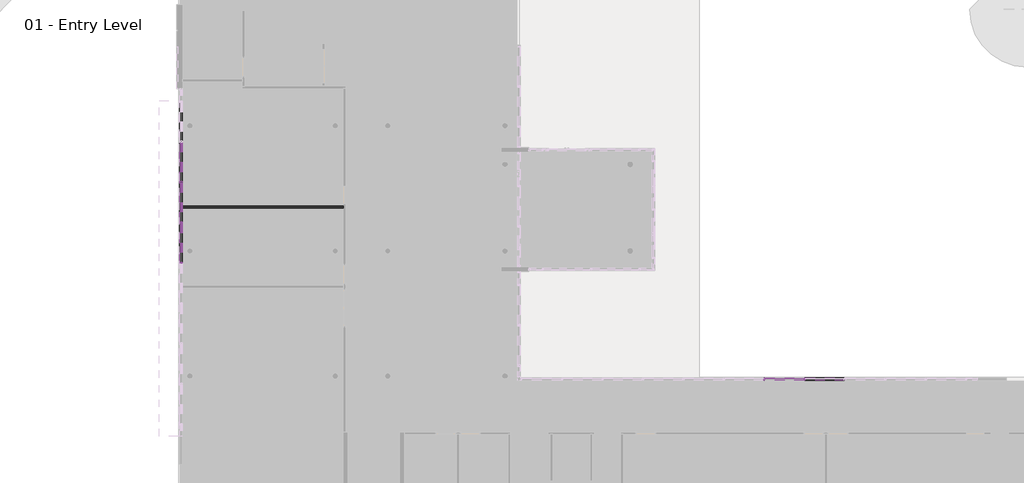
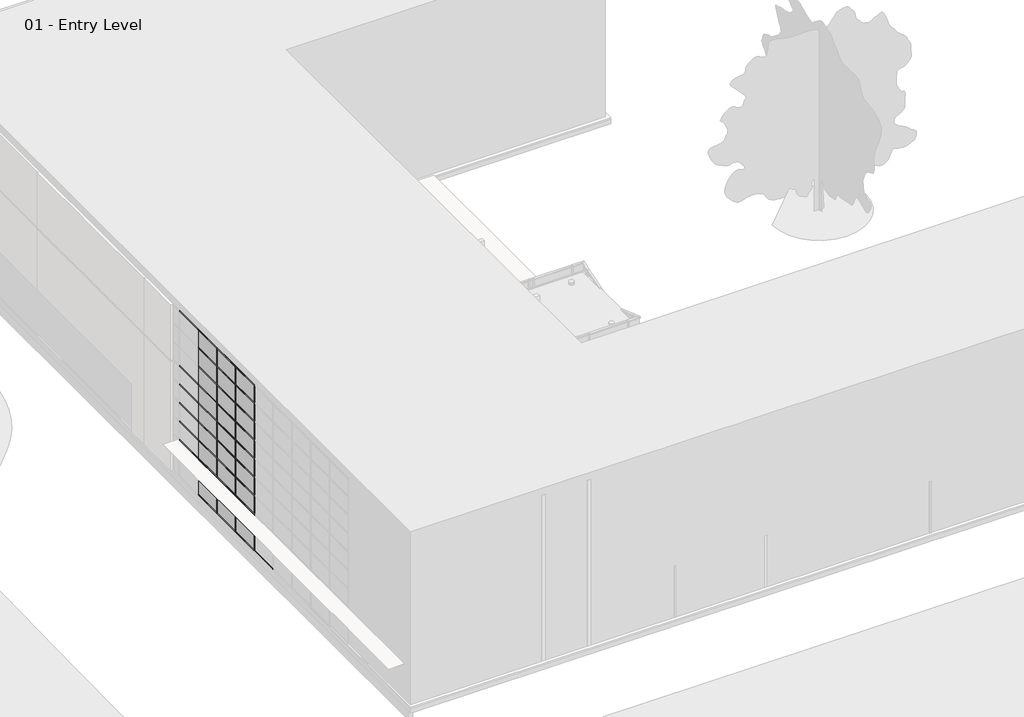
# One storey, part 11 of 35: 94 members, 36 plates, 1 wall.
"""IFC4 building model written with IfcOpenShell, lengths in millimetres."""

from ifc_helpers import new_model, si_unit, origin, origin_with_axes, place, context, project, spatial, polyline, outline, extrude, transform, mapped, element, save
from components import member_2b49869a, member_391b434c, member_9e90ae50, system_panel_glazed_1b9d6098, system_panel_glazed_70da479d, system_panel_solid_b376696c, system_panel_solid_77e8b053

model = new_model("IFC4")

# Units and contexts
model_context = context("Model", 3, world=origin())
ifc_project = project(units=[si_unit("LENGTHUNIT", "METRE", prefix="MILLI")], contexts=[model_context])

# Site, building, storey
site = spatial("IfcSite", under=ifc_project)
building = spatial("IfcBuilding", under=site)
storey = spatial("IfcBuildingStorey", under=building, Name="01 - Entry Level", Elevation=0.0)

# Members
placement = place(None, origin())
member_shape = member_2b49869a(model_context)
element("IfcMember", 1, ObjectType="Rectangular Mullion : 2.5\" x 5\" rectangular", at=placement, inside=storey, context=model_context, shape_type="MappedRepresentation", body=[
    mapped(member_shape, transform((178.7207476, 20920.0, 9753.6), x_axis=(0.0, -1.0, 0.0), y_axis=(-1.0, 0.0, 0.0), z_axis=(0.0, 0.0, -1.0))),
])
element("IfcMember", 2, ObjectType="Rectangular Mullion : 2.5\" x 5\" rectangular", at=placement, inside=storey, context=model_context, shape_type="MappedRepresentation", body=[
    mapped(member_shape, transform((178.7207476, 18888.0, 9753.6), x_axis=(0.0, -1.0, 0.0), y_axis=(-1.0, 0.0, 0.0), z_axis=(0.0, 0.0, -1.0))),
])
element("IfcMember", 3, ObjectType="Rectangular Mullion : 2.5\" x 5\" rectangular", at=placement, inside=storey, context=model_context, shape_type="MappedRepresentation", body=[
    mapped(member_shape, transform((178.7207476, 16856.0, 9753.6), x_axis=(0.0, -1.0, 0.0), y_axis=(-1.0, 0.0, 0.0), z_axis=(0.0, 0.0, -1.0))),
])
element("IfcMember", 4, ObjectType="Rectangular Mullion : 2.5\" x 5\" rectangular", at=placement, inside=storey, context=model_context, shape_type="MappedRepresentation", body=[
    mapped(member_shape, transform((31560.4207476, 11001.3, 9753.6), x_axis=(-1.0, 0.0, 0.0), y_axis=(0.0, 1.0, 0.0), z_axis=(0.0, 0.0, -1.0))),
])
element("IfcMember", 5, ObjectType="Rectangular Mullion : 2.5\" x 5\" rectangular", at=placement, inside=storey, context=model_context, shape_type="MappedRepresentation", body=[
    mapped(member_shape, transform((29528.4207476, 11001.3, 9753.6), x_axis=(-1.0, 0.0, 0.0), y_axis=(0.0, 1.0, 0.0), z_axis=(0.0, 0.0, -1.0))),
])
member_2_shape = member_391b434c(model_context)
element("IfcMember", 6, ObjectType="Rectangular Mullion : 2.5\" x 5\" rectangular", at=placement, inside=storey, context=model_context, shape_type="MappedRepresentation", body=[
    mapped(member_2_shape, transform((178.7207476, 22983.75, 10972.8), x_axis=(0.0, 0.0, 1.0), y_axis=(-1.0, 0.0, 0.0), z_axis=(0.0, -1.0, 0.0))),
])
element("IfcMember", 7, ObjectType="Rectangular Mullion : 2.5\" x 5\" rectangular", at=placement, inside=storey, context=model_context, shape_type="MappedRepresentation", body=[
    mapped(member_2_shape, transform((178.7207476, 20951.75, 10972.8), x_axis=(0.0, 0.0, 1.0), y_axis=(-1.0, 0.0, 0.0), z_axis=(0.0, -1.0, 0.0))),
])
element("IfcMember", 8, ObjectType="Rectangular Mullion : 2.5\" x 5\" rectangular", at=placement, inside=storey, context=model_context, shape_type="MappedRepresentation", body=[
    mapped(member_2_shape, transform((178.7207476, 18919.75, 10972.8), x_axis=(0.0, 0.0, 1.0), y_axis=(-1.0, 0.0, 0.0), z_axis=(0.0, -1.0, 0.0))),
])
element("IfcMember", 9, ObjectType="Rectangular Mullion : 2.5\" x 5\" rectangular", at=placement, inside=storey, context=model_context, shape_type="MappedRepresentation", body=[
    mapped(member_2_shape, transform((178.7207476, 16887.75, 10972.8), x_axis=(0.0, 0.0, 1.0), y_axis=(-1.0, 0.0, 0.0), z_axis=(0.0, -1.0, 0.0))),
])
element("IfcMember", 10, ObjectType="Rectangular Mullion : 2.5\" x 5\" rectangular", at=placement, inside=storey, context=model_context, shape_type="MappedRepresentation", body=[
    mapped(member_2_shape, transform((31592.1707476, 11001.3, 10972.8), x_axis=(0.0, 0.0, 1.0), y_axis=(0.0, 1.0, 0.0), z_axis=(-1.0, 0.0, 0.0))),
])
element("IfcMember", 11, ObjectType="Rectangular Mullion : 2.5\" x 5\" rectangular", at=placement, inside=storey, context=model_context, shape_type="MappedRepresentation", body=[
    mapped(member_2_shape, transform((178.7207476, 22920.25, 0.0), x_axis=(0.0, 0.0, -1.0), y_axis=(-1.0, 0.0, 0.0), z_axis=(0.0, 1.0, 0.0))),
])
element("IfcMember", 12, ObjectType="Rectangular Mullion : 2.5\" x 5\" rectangular", at=placement, inside=storey, context=model_context, shape_type="MappedRepresentation", body=[
    mapped(member_2_shape, transform((178.7207476, 20888.25, 0.0), x_axis=(0.0, 0.0, -1.0), y_axis=(-1.0, 0.0, 0.0), z_axis=(0.0, 1.0, 0.0))),
])
element("IfcMember", 13, ObjectType="Rectangular Mullion : 2.5\" x 5\" rectangular", at=placement, inside=storey, context=model_context, shape_type="MappedRepresentation", body=[
    mapped(member_2_shape, transform((178.7207476, 18856.25, 0.0), x_axis=(0.0, 0.0, -1.0), y_axis=(-1.0, 0.0, 0.0), z_axis=(0.0, 1.0, 0.0))),
])
element("IfcMember", 14, ObjectType="Rectangular Mullion : 2.5\" x 5\" rectangular", at=placement, inside=storey, context=model_context, shape_type="MappedRepresentation", body=[
    mapped(member_2_shape, transform((178.7207476, 16824.25, 0.0), x_axis=(0.0, 0.0, -1.0), y_axis=(-1.0, 0.0, 0.0), z_axis=(0.0, 1.0, 0.0))),
])
element("IfcMember", 15, ObjectType="Rectangular Mullion : 2.5\" x 5\" rectangular", at=placement, inside=storey, context=model_context, shape_type="MappedRepresentation", body=[
    mapped(member_2_shape, transform((31528.6707476, 11001.3, 0.0), x_axis=(0.0, 0.0, -1.0), y_axis=(0.0, 1.0, 0.0), z_axis=(1.0, 0.0, 0.0))),
])
member_3_shape = member_9e90ae50(model_context)
element("IfcMember", 16, ObjectType="Rectangular Mullion : 2.5\" x 5\" rectangular", at=placement, inside=storey, context=model_context, shape_type="MappedRepresentation", body=[
    mapped(member_3_shape, transform((178.7207476, 22983.75, 1219.2), x_axis=(0.0, 0.0, 1.0), y_axis=(-1.0, 0.0, 0.0), z_axis=(0.0, -1.0, 0.0))),
])
element("IfcMember", 17, ObjectType="Rectangular Mullion : 2.5\" x 5\" rectangular", at=placement, inside=storey, context=model_context, shape_type="MappedRepresentation", body=[
    mapped(member_3_shape, transform((178.7207476, 20951.75, 1219.2), x_axis=(0.0, 0.0, 1.0), y_axis=(-1.0, 0.0, 0.0), z_axis=(0.0, -1.0, 0.0))),
])
element("IfcMember", 18, ObjectType="Rectangular Mullion : 2.5\" x 5\" rectangular", at=placement, inside=storey, context=model_context, shape_type="MappedRepresentation", body=[
    mapped(member_3_shape, transform((178.7207476, 18919.75, 1219.2), x_axis=(0.0, 0.0, 1.0), y_axis=(-1.0, 0.0, 0.0), z_axis=(0.0, -1.0, 0.0))),
])
element("IfcMember", 19, ObjectType="Rectangular Mullion : 2.5\" x 5\" rectangular", at=placement, inside=storey, context=model_context, shape_type="MappedRepresentation", body=[
    mapped(member_3_shape, transform((178.7207476, 16887.75, 1219.2), x_axis=(0.0, 0.0, 1.0), y_axis=(-1.0, 0.0, 0.0), z_axis=(0.0, -1.0, 0.0))),
])
element("IfcMember", 20, ObjectType="Rectangular Mullion : 2.5\" x 5\" rectangular", at=placement, inside=storey, context=model_context, shape_type="MappedRepresentation", body=[
    mapped(member_3_shape, transform((178.7207476, 22983.75, 2438.4), x_axis=(0.0, 0.0, 1.0), y_axis=(-1.0, 0.0, 0.0), z_axis=(0.0, -1.0, 0.0))),
])
element("IfcMember", 21, ObjectType="Rectangular Mullion : 2.5\" x 5\" rectangular", at=placement, inside=storey, context=model_context, shape_type="MappedRepresentation", body=[
    mapped(member_3_shape, transform((178.7207476, 20951.75, 2438.4), x_axis=(0.0, 0.0, 1.0), y_axis=(-1.0, 0.0, 0.0), z_axis=(0.0, -1.0, 0.0))),
])
element("IfcMember", 22, ObjectType="Rectangular Mullion : 2.5\" x 5\" rectangular", at=placement, inside=storey, context=model_context, shape_type="MappedRepresentation", body=[
    mapped(member_3_shape, transform((178.7207476, 18919.75, 2438.4), x_axis=(0.0, 0.0, 1.0), y_axis=(-1.0, 0.0, 0.0), z_axis=(0.0, -1.0, 0.0))),
])
element("IfcMember", 23, ObjectType="Rectangular Mullion : 2.5\" x 5\" rectangular", at=placement, inside=storey, context=model_context, shape_type="MappedRepresentation", body=[
    mapped(member_3_shape, transform((178.7207476, 16887.75, 2438.4), x_axis=(0.0, 0.0, 1.0), y_axis=(-1.0, 0.0, 0.0), z_axis=(0.0, -1.0, 0.0))),
])
element("IfcMember", 24, ObjectType="Rectangular Mullion : 2.5\" x 5\" rectangular", at=placement, inside=storey, context=model_context, shape_type="MappedRepresentation", body=[
    mapped(member_3_shape, transform((178.7207476, 22983.75, 3657.6), x_axis=(0.0, 0.0, 1.0), y_axis=(-1.0, 0.0, 0.0), z_axis=(0.0, -1.0, 0.0))),
])
element("IfcMember", 25, ObjectType="Rectangular Mullion : 2.5\" x 5\" rectangular", at=placement, inside=storey, context=model_context, shape_type="MappedRepresentation", body=[
    mapped(member_3_shape, transform((178.7207476, 20951.75, 3657.6), x_axis=(0.0, 0.0, 1.0), y_axis=(-1.0, 0.0, 0.0), z_axis=(0.0, -1.0, 0.0))),
])
element("IfcMember", 26, ObjectType="Rectangular Mullion : 2.5\" x 5\" rectangular", at=placement, inside=storey, context=model_context, shape_type="MappedRepresentation", body=[
    mapped(member_3_shape, transform((178.7207476, 18919.75, 3657.6), x_axis=(0.0, 0.0, 1.0), y_axis=(-1.0, 0.0, 0.0), z_axis=(0.0, -1.0, 0.0))),
])
element("IfcMember", 27, ObjectType="Rectangular Mullion : 2.5\" x 5\" rectangular", at=placement, inside=storey, context=model_context, shape_type="MappedRepresentation", body=[
    mapped(member_3_shape, transform((178.7207476, 16887.75, 3657.6), x_axis=(0.0, 0.0, 1.0), y_axis=(-1.0, 0.0, 0.0), z_axis=(0.0, -1.0, 0.0))),
])
element("IfcMember", 28, ObjectType="Rectangular Mullion : 2.5\" x 5\" rectangular", at=placement, inside=storey, context=model_context, shape_type="MappedRepresentation", body=[
    mapped(member_3_shape, transform((178.7207476, 22983.75, 4876.8), x_axis=(0.0, 0.0, 1.0), y_axis=(-1.0, 0.0, 0.0), z_axis=(0.0, -1.0, 0.0))),
])
element("IfcMember", 29, ObjectType="Rectangular Mullion : 2.5\" x 5\" rectangular", at=placement, inside=storey, context=model_context, shape_type="MappedRepresentation", body=[
    mapped(member_3_shape, transform((178.7207476, 20951.75, 4876.8), x_axis=(0.0, 0.0, 1.0), y_axis=(-1.0, 0.0, 0.0), z_axis=(0.0, -1.0, 0.0))),
])
element("IfcMember", 30, ObjectType="Rectangular Mullion : 2.5\" x 5\" rectangular", at=placement, inside=storey, context=model_context, shape_type="MappedRepresentation", body=[
    mapped(member_3_shape, transform((178.7207476, 18919.75, 4876.8), x_axis=(0.0, 0.0, 1.0), y_axis=(-1.0, 0.0, 0.0), z_axis=(0.0, -1.0, 0.0))),
])
element("IfcMember", 31, ObjectType="Rectangular Mullion : 2.5\" x 5\" rectangular", at=placement, inside=storey, context=model_context, shape_type="MappedRepresentation", body=[
    mapped(member_3_shape, transform((178.7207476, 16887.75, 4876.8), x_axis=(0.0, 0.0, 1.0), y_axis=(-1.0, 0.0, 0.0), z_axis=(0.0, -1.0, 0.0))),
])
element("IfcMember", 32, ObjectType="Rectangular Mullion : 2.5\" x 5\" rectangular", at=placement, inside=storey, context=model_context, shape_type="MappedRepresentation", body=[
    mapped(member_3_shape, transform((178.7207476, 22983.75, 6096.0), x_axis=(0.0, 0.0, 1.0), y_axis=(-1.0, 0.0, 0.0), z_axis=(0.0, -1.0, 0.0))),
])
element("IfcMember", 33, ObjectType="Rectangular Mullion : 2.5\" x 5\" rectangular", at=placement, inside=storey, context=model_context, shape_type="MappedRepresentation", body=[
    mapped(member_3_shape, transform((178.7207476, 20951.75, 6096.0), x_axis=(0.0, 0.0, 1.0), y_axis=(-1.0, 0.0, 0.0), z_axis=(0.0, -1.0, 0.0))),
])
element("IfcMember", 34, ObjectType="Rectangular Mullion : 2.5\" x 5\" rectangular", at=placement, inside=storey, context=model_context, shape_type="MappedRepresentation", body=[
    mapped(member_3_shape, transform((178.7207476, 18919.75, 6096.0), x_axis=(0.0, 0.0, 1.0), y_axis=(-1.0, 0.0, 0.0), z_axis=(0.0, -1.0, 0.0))),
])
element("IfcMember", 35, ObjectType="Rectangular Mullion : 2.5\" x 5\" rectangular", at=placement, inside=storey, context=model_context, shape_type="MappedRepresentation", body=[
    mapped(member_3_shape, transform((178.7207476, 16887.75, 6096.0), x_axis=(0.0, 0.0, 1.0), y_axis=(-1.0, 0.0, 0.0), z_axis=(0.0, -1.0, 0.0))),
])
element("IfcMember", 36, ObjectType="Rectangular Mullion : 2.5\" x 5\" rectangular", at=placement, inside=storey, context=model_context, shape_type="MappedRepresentation", body=[
    mapped(member_3_shape, transform((178.7207476, 22983.75, 7315.2), x_axis=(0.0, 0.0, 1.0), y_axis=(-1.0, 0.0, 0.0), z_axis=(0.0, -1.0, 0.0))),
])
element("IfcMember", 37, ObjectType="Rectangular Mullion : 2.5\" x 5\" rectangular", at=placement, inside=storey, context=model_context, shape_type="MappedRepresentation", body=[
    mapped(member_3_shape, transform((178.7207476, 20951.75, 7315.2), x_axis=(0.0, 0.0, 1.0), y_axis=(-1.0, 0.0, 0.0), z_axis=(0.0, -1.0, 0.0))),
])
element("IfcMember", 38, ObjectType="Rectangular Mullion : 2.5\" x 5\" rectangular", at=placement, inside=storey, context=model_context, shape_type="MappedRepresentation", body=[
    mapped(member_3_shape, transform((178.7207476, 18919.75, 7315.2), x_axis=(0.0, 0.0, 1.0), y_axis=(-1.0, 0.0, 0.0), z_axis=(0.0, -1.0, 0.0))),
])
element("IfcMember", 39, ObjectType="Rectangular Mullion : 2.5\" x 5\" rectangular", at=placement, inside=storey, context=model_context, shape_type="MappedRepresentation", body=[
    mapped(member_3_shape, transform((178.7207476, 16887.75, 7315.2), x_axis=(0.0, 0.0, 1.0), y_axis=(-1.0, 0.0, 0.0), z_axis=(0.0, -1.0, 0.0))),
])
element("IfcMember", 40, ObjectType="Rectangular Mullion : 2.5\" x 5\" rectangular", at=placement, inside=storey, context=model_context, shape_type="MappedRepresentation", body=[
    mapped(member_3_shape, transform((178.7207476, 20951.75, 8534.4), x_axis=(0.0, 0.0, 1.0), y_axis=(-1.0, 0.0, 0.0), z_axis=(0.0, -1.0, 0.0))),
])
element("IfcMember", 41, ObjectType="Rectangular Mullion : 2.5\" x 5\" rectangular", at=placement, inside=storey, context=model_context, shape_type="MappedRepresentation", body=[
    mapped(member_3_shape, transform((178.7207476, 18919.75, 8534.4), x_axis=(0.0, 0.0, 1.0), y_axis=(-1.0, 0.0, 0.0), z_axis=(0.0, -1.0, 0.0))),
])
element("IfcMember", 42, ObjectType="Rectangular Mullion : 2.5\" x 5\" rectangular", at=placement, inside=storey, context=model_context, shape_type="MappedRepresentation", body=[
    mapped(member_3_shape, transform((178.7207476, 16887.75, 8534.4), x_axis=(0.0, 0.0, 1.0), y_axis=(-1.0, 0.0, 0.0), z_axis=(0.0, -1.0, 0.0))),
])
element("IfcMember", 43, ObjectType="Rectangular Mullion : 2.5\" x 5\" rectangular", at=placement, inside=storey, context=model_context, shape_type="MappedRepresentation", body=[
    mapped(member_3_shape, transform((178.7207476, 20951.75, 9753.6), x_axis=(0.0, 0.0, 1.0), y_axis=(-1.0, 0.0, 0.0), z_axis=(0.0, -1.0, 0.0))),
])
element("IfcMember", 44, ObjectType="Rectangular Mullion : 2.5\" x 5\" rectangular", at=placement, inside=storey, context=model_context, shape_type="MappedRepresentation", body=[
    mapped(member_3_shape, transform((178.7207476, 18919.75, 9753.6), x_axis=(0.0, 0.0, 1.0), y_axis=(-1.0, 0.0, 0.0), z_axis=(0.0, -1.0, 0.0))),
])
element("IfcMember", 45, ObjectType="Rectangular Mullion : 2.5\" x 5\" rectangular", at=placement, inside=storey, context=model_context, shape_type="MappedRepresentation", body=[
    mapped(member_3_shape, transform((178.7207476, 16887.75, 9753.6), x_axis=(0.0, 0.0, 1.0), y_axis=(-1.0, 0.0, 0.0), z_axis=(0.0, -1.0, 0.0))),
])
element("IfcMember", 46, ObjectType="Rectangular Mullion : 2.5\" x 5\" rectangular", at=placement, inside=storey, context=model_context, shape_type="MappedRepresentation", body=[
    mapped(member_3_shape, transform((31592.1707476, 11001.3, 1219.2), x_axis=(0.0, 0.0, 1.0), y_axis=(0.0, 1.0, 0.0), z_axis=(-1.0, 0.0, 0.0))),
])
element("IfcMember", 47, ObjectType="Rectangular Mullion : 2.5\" x 5\" rectangular", at=placement, inside=storey, context=model_context, shape_type="MappedRepresentation", body=[
    mapped(member_3_shape, transform((31592.1707476, 11001.3, 2438.4), x_axis=(0.0, 0.0, 1.0), y_axis=(0.0, 1.0, 0.0), z_axis=(-1.0, 0.0, 0.0))),
])
element("IfcMember", 48, ObjectType="Rectangular Mullion : 2.5\" x 5\" rectangular", at=placement, inside=storey, context=model_context, shape_type="MappedRepresentation", body=[
    mapped(member_3_shape, transform((31592.1707476, 11001.3, 3657.6), x_axis=(0.0, 0.0, 1.0), y_axis=(0.0, 1.0, 0.0), z_axis=(-1.0, 0.0, 0.0))),
])
element("IfcMember", 49, ObjectType="Rectangular Mullion : 2.5\" x 5\" rectangular", at=placement, inside=storey, context=model_context, shape_type="MappedRepresentation", body=[
    mapped(member_3_shape, transform((31592.1707476, 11001.3, 4876.8), x_axis=(0.0, 0.0, 1.0), y_axis=(0.0, 1.0, 0.0), z_axis=(-1.0, 0.0, 0.0))),
])
element("IfcMember", 50, ObjectType="Rectangular Mullion : 2.5\" x 5\" rectangular", at=placement, inside=storey, context=model_context, shape_type="MappedRepresentation", body=[
    mapped(member_3_shape, transform((31592.1707476, 11001.3, 6096.0), x_axis=(0.0, 0.0, 1.0), y_axis=(0.0, 1.0, 0.0), z_axis=(-1.0, 0.0, 0.0))),
])
element("IfcMember", 51, ObjectType="Rectangular Mullion : 2.5\" x 5\" rectangular", at=placement, inside=storey, context=model_context, shape_type="MappedRepresentation", body=[
    mapped(member_3_shape, transform((31592.1707476, 11001.3, 7315.2), x_axis=(0.0, 0.0, 1.0), y_axis=(0.0, 1.0, 0.0), z_axis=(-1.0, 0.0, 0.0))),
])
element("IfcMember", 52, ObjectType="Rectangular Mullion : 2.5\" x 5\" rectangular", at=placement, inside=storey, context=model_context, shape_type="MappedRepresentation", body=[
    mapped(member_3_shape, transform((31592.1707476, 11001.3, 8534.4), x_axis=(0.0, 0.0, 1.0), y_axis=(0.0, 1.0, 0.0), z_axis=(-1.0, 0.0, 0.0))),
])
element("IfcMember", 53, ObjectType="Rectangular Mullion : 2.5\" x 5\" rectangular", at=placement, inside=storey, context=model_context, shape_type="MappedRepresentation", body=[
    mapped(member_3_shape, transform((31592.1707476, 11001.3, 9753.6), x_axis=(0.0, 0.0, 1.0), y_axis=(0.0, 1.0, 0.0), z_axis=(-1.0, 0.0, 0.0))),
])
element("IfcMember", 54, ObjectType="Rectangular Mullion : 2.5\" x 5\" rectangular", at=placement, inside=storey, context=model_context, shape_type="MappedRepresentation", body=[
    mapped(member_3_shape, transform((29560.1707476, 11001.3, 9753.6), x_axis=(0.0, 0.0, 1.0), y_axis=(0.0, 1.0, 0.0), z_axis=(-1.0, 0.0, 0.0))),
])
element("IfcMember", 55, ObjectType="Rectangular Mullion : 2.5\" x 5\" rectangular", at=placement, inside=storey, context=model_context, shape_type="MappedRepresentation", body=[
    mapped(member_shape, transform((178.7207476, 20920.0, 0.0), x_axis=(0.0, -1.0, 0.0), y_axis=(-1.0, 0.0, 0.0), z_axis=(0.0, 0.0, -1.0))),
])
element("IfcMember", 56, ObjectType="Rectangular Mullion : 2.5\" x 5\" rectangular", at=placement, inside=storey, context=model_context, shape_type="MappedRepresentation", body=[
    mapped(member_shape, transform((178.7207476, 18888.0, 0.0), x_axis=(0.0, -1.0, 0.0), y_axis=(-1.0, 0.0, 0.0), z_axis=(0.0, 0.0, -1.0))),
])
element("IfcMember", 57, ObjectType="Rectangular Mullion : 2.5\" x 5\" rectangular", at=placement, inside=storey, context=model_context, shape_type="MappedRepresentation", body=[
    mapped(member_shape, transform((178.7207476, 16856.0, 0.0), x_axis=(0.0, -1.0, 0.0), y_axis=(-1.0, 0.0, 0.0), z_axis=(0.0, 0.0, -1.0))),
])
element("IfcMember", 58, ObjectType="Rectangular Mullion : 2.5\" x 5\" rectangular", at=placement, inside=storey, context=model_context, shape_type="MappedRepresentation", body=[
    mapped(member_shape, transform((31560.4207476, 11001.3, 0.0), x_axis=(-1.0, 0.0, 0.0), y_axis=(0.0, 1.0, 0.0), z_axis=(0.0, 0.0, -1.0))),
])
element("IfcMember", 59, ObjectType="Rectangular Mullion : 2.5\" x 5\" rectangular", at=placement, inside=storey, context=model_context, shape_type="MappedRepresentation", body=[
    mapped(member_shape, transform((29528.4207476, 11001.3, 0.0), x_axis=(-1.0, 0.0, 0.0), y_axis=(0.0, 1.0, 0.0), z_axis=(0.0, 0.0, -1.0))),
])
element("IfcMember", 60, ObjectType="Rectangular Mullion : 2.5\" x 5\" rectangular", at=placement, inside=storey, context=model_context, shape_type="MappedRepresentation", body=[
    mapped(member_shape, transform((178.7207476, 20920.0, 1219.2), x_axis=(0.0, -1.0, 0.0), y_axis=(-1.0, 0.0, 0.0), z_axis=(0.0, 0.0, -1.0))),
])
element("IfcMember", 61, ObjectType="Rectangular Mullion : 2.5\" x 5\" rectangular", at=placement, inside=storey, context=model_context, shape_type="MappedRepresentation", body=[
    mapped(member_shape, transform((178.7207476, 18888.0, 1219.2), x_axis=(0.0, -1.0, 0.0), y_axis=(-1.0, 0.0, 0.0), z_axis=(0.0, 0.0, -1.0))),
])
element("IfcMember", 62, ObjectType="Rectangular Mullion : 2.5\" x 5\" rectangular", at=placement, inside=storey, context=model_context, shape_type="MappedRepresentation", body=[
    mapped(member_shape, transform((178.7207476, 16856.0, 1219.2), x_axis=(0.0, -1.0, 0.0), y_axis=(-1.0, 0.0, 0.0), z_axis=(0.0, 0.0, -1.0))),
])
element("IfcMember", 63, ObjectType="Rectangular Mullion : 2.5\" x 5\" rectangular", at=placement, inside=storey, context=model_context, shape_type="MappedRepresentation", body=[
    mapped(member_shape, transform((178.7207476, 20920.0, 2438.4), x_axis=(0.0, -1.0, 0.0), y_axis=(-1.0, 0.0, 0.0), z_axis=(0.0, 0.0, -1.0))),
])
element("IfcMember", 64, ObjectType="Rectangular Mullion : 2.5\" x 5\" rectangular", at=placement, inside=storey, context=model_context, shape_type="MappedRepresentation", body=[
    mapped(member_shape, transform((178.7207476, 18888.0, 2438.4), x_axis=(0.0, -1.0, 0.0), y_axis=(-1.0, 0.0, 0.0), z_axis=(0.0, 0.0, -1.0))),
])
element("IfcMember", 65, ObjectType="Rectangular Mullion : 2.5\" x 5\" rectangular", at=placement, inside=storey, context=model_context, shape_type="MappedRepresentation", body=[
    mapped(member_shape, transform((178.7207476, 16856.0, 2438.4), x_axis=(0.0, -1.0, 0.0), y_axis=(-1.0, 0.0, 0.0), z_axis=(0.0, 0.0, -1.0))),
])
element("IfcMember", 66, ObjectType="Rectangular Mullion : 2.5\" x 5\" rectangular", at=placement, inside=storey, context=model_context, shape_type="MappedRepresentation", body=[
    mapped(member_shape, transform((178.7207476, 20920.0, 3657.6), x_axis=(0.0, -1.0, 0.0), y_axis=(-1.0, 0.0, 0.0), z_axis=(0.0, 0.0, -1.0))),
])
element("IfcMember", 67, ObjectType="Rectangular Mullion : 2.5\" x 5\" rectangular", at=placement, inside=storey, context=model_context, shape_type="MappedRepresentation", body=[
    mapped(member_shape, transform((178.7207476, 18888.0, 3657.6), x_axis=(0.0, -1.0, 0.0), y_axis=(-1.0, 0.0, 0.0), z_axis=(0.0, 0.0, -1.0))),
])
element("IfcMember", 68, ObjectType="Rectangular Mullion : 2.5\" x 5\" rectangular", at=placement, inside=storey, context=model_context, shape_type="MappedRepresentation", body=[
    mapped(member_shape, transform((178.7207476, 16856.0, 3657.6), x_axis=(0.0, -1.0, 0.0), y_axis=(-1.0, 0.0, 0.0), z_axis=(0.0, 0.0, -1.0))),
])
element("IfcMember", 69, ObjectType="Rectangular Mullion : 2.5\" x 5\" rectangular", at=placement, inside=storey, context=model_context, shape_type="MappedRepresentation", body=[
    mapped(member_shape, transform((178.7207476, 20920.0, 4876.8), x_axis=(0.0, -1.0, 0.0), y_axis=(-1.0, 0.0, 0.0), z_axis=(0.0, 0.0, -1.0))),
])
element("IfcMember", 70, ObjectType="Rectangular Mullion : 2.5\" x 5\" rectangular", at=placement, inside=storey, context=model_context, shape_type="MappedRepresentation", body=[
    mapped(member_shape, transform((178.7207476, 18888.0, 4876.8), x_axis=(0.0, -1.0, 0.0), y_axis=(-1.0, 0.0, 0.0), z_axis=(0.0, 0.0, -1.0))),
])
element("IfcMember", 71, ObjectType="Rectangular Mullion : 2.5\" x 5\" rectangular", at=placement, inside=storey, context=model_context, shape_type="MappedRepresentation", body=[
    mapped(member_shape, transform((178.7207476, 16856.0, 4876.8), x_axis=(0.0, -1.0, 0.0), y_axis=(-1.0, 0.0, 0.0), z_axis=(0.0, 0.0, -1.0))),
])
element("IfcMember", 72, ObjectType="Rectangular Mullion : 2.5\" x 5\" rectangular", at=placement, inside=storey, context=model_context, shape_type="MappedRepresentation", body=[
    mapped(member_shape, transform((178.7207476, 20920.0, 6096.0), x_axis=(0.0, -1.0, 0.0), y_axis=(-1.0, 0.0, 0.0), z_axis=(0.0, 0.0, -1.0))),
])
element("IfcMember", 73, ObjectType="Rectangular Mullion : 2.5\" x 5\" rectangular", at=placement, inside=storey, context=model_context, shape_type="MappedRepresentation", body=[
    mapped(member_shape, transform((178.7207476, 18888.0, 6096.0), x_axis=(0.0, -1.0, 0.0), y_axis=(-1.0, 0.0, 0.0), z_axis=(0.0, 0.0, -1.0))),
])
element("IfcMember", 74, ObjectType="Rectangular Mullion : 2.5\" x 5\" rectangular", at=placement, inside=storey, context=model_context, shape_type="MappedRepresentation", body=[
    mapped(member_shape, transform((178.7207476, 16856.0, 6096.0), x_axis=(0.0, -1.0, 0.0), y_axis=(-1.0, 0.0, 0.0), z_axis=(0.0, 0.0, -1.0))),
])
element("IfcMember", 75, ObjectType="Rectangular Mullion : 2.5\" x 5\" rectangular", at=placement, inside=storey, context=model_context, shape_type="MappedRepresentation", body=[
    mapped(member_shape, transform((178.7207476, 20920.0, 7315.2), x_axis=(0.0, -1.0, 0.0), y_axis=(-1.0, 0.0, 0.0), z_axis=(0.0, 0.0, -1.0))),
])
element("IfcMember", 76, ObjectType="Rectangular Mullion : 2.5\" x 5\" rectangular", at=placement, inside=storey, context=model_context, shape_type="MappedRepresentation", body=[
    mapped(member_shape, transform((178.7207476, 18888.0, 7315.2), x_axis=(0.0, -1.0, 0.0), y_axis=(-1.0, 0.0, 0.0), z_axis=(0.0, 0.0, -1.0))),
])
element("IfcMember", 77, ObjectType="Rectangular Mullion : 2.5\" x 5\" rectangular", at=placement, inside=storey, context=model_context, shape_type="MappedRepresentation", body=[
    mapped(member_shape, transform((178.7207476, 16856.0, 7315.2), x_axis=(0.0, -1.0, 0.0), y_axis=(-1.0, 0.0, 0.0), z_axis=(0.0, 0.0, -1.0))),
])
element("IfcMember", 78, ObjectType="Rectangular Mullion : 2.5\" x 5\" rectangular", at=placement, inside=storey, context=model_context, shape_type="MappedRepresentation", body=[
    mapped(member_shape, transform((178.7207476, 20920.0, 8534.4), x_axis=(0.0, -1.0, 0.0), y_axis=(-1.0, 0.0, 0.0), z_axis=(0.0, 0.0, -1.0))),
])
element("IfcMember", 79, ObjectType="Rectangular Mullion : 2.5\" x 5\" rectangular", at=placement, inside=storey, context=model_context, shape_type="MappedRepresentation", body=[
    mapped(member_shape, transform((178.7207476, 18888.0, 8534.4), x_axis=(0.0, -1.0, 0.0), y_axis=(-1.0, 0.0, 0.0), z_axis=(0.0, 0.0, -1.0))),
])
element("IfcMember", 80, ObjectType="Rectangular Mullion : 2.5\" x 5\" rectangular", at=placement, inside=storey, context=model_context, shape_type="MappedRepresentation", body=[
    mapped(member_shape, transform((178.7207476, 16856.0, 8534.4), x_axis=(0.0, -1.0, 0.0), y_axis=(-1.0, 0.0, 0.0), z_axis=(0.0, 0.0, -1.0))),
])
element("IfcMember", 81, ObjectType="Rectangular Mullion : 2.5\" x 5\" rectangular", at=placement, inside=storey, context=model_context, shape_type="MappedRepresentation", body=[
    mapped(member_shape, transform((31560.4207476, 11001.3, 1219.2), x_axis=(-1.0, 0.0, 0.0), y_axis=(0.0, 1.0, 0.0), z_axis=(0.0, 0.0, -1.0))),
])
element("IfcMember", 82, ObjectType="Rectangular Mullion : 2.5\" x 5\" rectangular", at=placement, inside=storey, context=model_context, shape_type="MappedRepresentation", body=[
    mapped(member_shape, transform((29528.4207476, 11001.3, 1219.2), x_axis=(-1.0, 0.0, 0.0), y_axis=(0.0, 1.0, 0.0), z_axis=(0.0, 0.0, -1.0))),
])
element("IfcMember", 83, ObjectType="Rectangular Mullion : 2.5\" x 5\" rectangular", at=placement, inside=storey, context=model_context, shape_type="MappedRepresentation", body=[
    mapped(member_shape, transform((31560.4207476, 11001.3, 2438.4), x_axis=(-1.0, 0.0, 0.0), y_axis=(0.0, 1.0, 0.0), z_axis=(0.0, 0.0, -1.0))),
])
element("IfcMember", 84, ObjectType="Rectangular Mullion : 2.5\" x 5\" rectangular", at=placement, inside=storey, context=model_context, shape_type="MappedRepresentation", body=[
    mapped(member_shape, transform((29528.4207476, 11001.3, 2438.4), x_axis=(-1.0, 0.0, 0.0), y_axis=(0.0, 1.0, 0.0), z_axis=(0.0, 0.0, -1.0))),
])
element("IfcMember", 85, ObjectType="Rectangular Mullion : 2.5\" x 5\" rectangular", at=placement, inside=storey, context=model_context, shape_type="MappedRepresentation", body=[
    mapped(member_shape, transform((31560.4207476, 11001.3, 3657.6), x_axis=(-1.0, 0.0, 0.0), y_axis=(0.0, 1.0, 0.0), z_axis=(0.0, 0.0, -1.0))),
])
element("IfcMember", 86, ObjectType="Rectangular Mullion : 2.5\" x 5\" rectangular", at=placement, inside=storey, context=model_context, shape_type="MappedRepresentation", body=[
    mapped(member_shape, transform((29528.4207476, 11001.3, 3657.6), x_axis=(-1.0, 0.0, 0.0), y_axis=(0.0, 1.0, 0.0), z_axis=(0.0, 0.0, -1.0))),
])
element("IfcMember", 87, ObjectType="Rectangular Mullion : 2.5\" x 5\" rectangular", at=placement, inside=storey, context=model_context, shape_type="MappedRepresentation", body=[
    mapped(member_shape, transform((31560.4207476, 11001.3, 4876.8), x_axis=(-1.0, 0.0, 0.0), y_axis=(0.0, 1.0, 0.0), z_axis=(0.0, 0.0, -1.0))),
])
element("IfcMember", 88, ObjectType="Rectangular Mullion : 2.5\" x 5\" rectangular", at=placement, inside=storey, context=model_context, shape_type="MappedRepresentation", body=[
    mapped(member_shape, transform((29528.4207476, 11001.3, 4876.8), x_axis=(-1.0, 0.0, 0.0), y_axis=(0.0, 1.0, 0.0), z_axis=(0.0, 0.0, -1.0))),
])
element("IfcMember", 89, ObjectType="Rectangular Mullion : 2.5\" x 5\" rectangular", at=placement, inside=storey, context=model_context, shape_type="MappedRepresentation", body=[
    mapped(member_shape, transform((31560.4207476, 11001.3, 6096.0), x_axis=(-1.0, 0.0, 0.0), y_axis=(0.0, 1.0, 0.0), z_axis=(0.0, 0.0, -1.0))),
])
element("IfcMember", 90, ObjectType="Rectangular Mullion : 2.5\" x 5\" rectangular", at=placement, inside=storey, context=model_context, shape_type="MappedRepresentation", body=[
    mapped(member_shape, transform((29528.4207476, 11001.3, 6096.0), x_axis=(-1.0, 0.0, 0.0), y_axis=(0.0, 1.0, 0.0), z_axis=(0.0, 0.0, -1.0))),
])
element("IfcMember", 91, ObjectType="Rectangular Mullion : 2.5\" x 5\" rectangular", at=placement, inside=storey, context=model_context, shape_type="MappedRepresentation", body=[
    mapped(member_shape, transform((31560.4207476, 11001.3, 7315.2), x_axis=(-1.0, 0.0, 0.0), y_axis=(0.0, 1.0, 0.0), z_axis=(0.0, 0.0, -1.0))),
])
element("IfcMember", 92, ObjectType="Rectangular Mullion : 2.5\" x 5\" rectangular", at=placement, inside=storey, context=model_context, shape_type="MappedRepresentation", body=[
    mapped(member_shape, transform((29528.4207476, 11001.3, 7315.2), x_axis=(-1.0, 0.0, 0.0), y_axis=(0.0, 1.0, 0.0), z_axis=(0.0, 0.0, -1.0))),
])
element("IfcMember", 93, ObjectType="Rectangular Mullion : 2.5\" x 5\" rectangular", at=placement, inside=storey, context=model_context, shape_type="MappedRepresentation", body=[
    mapped(member_shape, transform((31560.4207476, 11001.3, 8534.4), x_axis=(-1.0, 0.0, 0.0), y_axis=(0.0, 1.0, 0.0), z_axis=(0.0, 0.0, -1.0))),
])
element("IfcMember", 94, ObjectType="Rectangular Mullion : 2.5\" x 5\" rectangular", at=placement, inside=storey, context=model_context, shape_type="MappedRepresentation", body=[
    mapped(member_shape, transform((29528.4207476, 11001.3, 8534.4), x_axis=(-1.0, 0.0, 0.0), y_axis=(0.0, 1.0, 0.0), z_axis=(0.0, 0.0, -1.0))),
])

# Plates
system_panel_glazed_shape = system_panel_glazed_1b9d6098(model_context)
element("IfcPlate", 95, ObjectType="System Panel : Glazed", at=placement, inside=storey, context=model_context, shape_type="MappedRepresentation", body=[
    mapped(system_panel_glazed_shape, transform((30544.4207476, 11001.3, 63.5), x_axis=(-1.0, 0.0, 0.0), y_axis=(0.0, -1.0, 0.0), z_axis=(0.0, 0.0, 1.0))),
])
element("IfcPlate", 96, ObjectType="System Panel : Glazed", at=placement, inside=storey, context=model_context, shape_type="MappedRepresentation", body=[
    mapped(system_panel_glazed_shape, transform((30544.4207476, 11001.3, 9785.35), x_axis=(-1.0, 0.0, 0.0), y_axis=(0.0, -1.0, 0.0), z_axis=(0.0, 0.0, 1.0))),
])
element("IfcPlate", 97, ObjectType="System Panel : Glazed", at=placement, inside=storey, context=model_context, shape_type="MappedRepresentation", body=[
    mapped(system_panel_glazed_shape, transform((178.7207476, 21936.0, 63.5), x_axis=(0.0, -1.0, 0.0), y_axis=(1.0, 0.0, 0.0), z_axis=(0.0, 0.0, 1.0))),
])
element("IfcPlate", 98, ObjectType="System Panel : Glazed", at=placement, inside=storey, context=model_context, shape_type="MappedRepresentation", body=[
    mapped(system_panel_glazed_shape, transform((178.7207476, 19904.0, 63.5), x_axis=(0.0, -1.0, 0.0), y_axis=(1.0, 0.0, 0.0), z_axis=(0.0, 0.0, 1.0))),
])
element("IfcPlate", 99, ObjectType="System Panel : Glazed", at=placement, inside=storey, context=model_context, shape_type="MappedRepresentation", body=[
    mapped(system_panel_glazed_shape, transform((178.7207476, 17872.0, 63.5), x_axis=(0.0, -1.0, 0.0), y_axis=(1.0, 0.0, 0.0), z_axis=(0.0, 0.0, 1.0))),
])
system_panel_glazed_2_shape = system_panel_glazed_70da479d(model_context)
element("IfcPlate", 100, ObjectType="System Panel : Glazed", at=placement, inside=storey, context=model_context, shape_type="MappedRepresentation", body=[
    mapped(system_panel_glazed_2_shape, transform((30544.4207476, 11001.3, 1250.95), x_axis=(-1.0, 0.0, 0.0), y_axis=(0.0, -1.0, 0.0), z_axis=(0.0, 0.0, 1.0))),
])
element("IfcPlate", 101, ObjectType="System Panel : Glazed", at=placement, inside=storey, context=model_context, shape_type="MappedRepresentation", body=[
    mapped(system_panel_glazed_2_shape, transform((30544.4207476, 11001.3, 2470.15), x_axis=(-1.0, 0.0, 0.0), y_axis=(0.0, -1.0, 0.0), z_axis=(0.0, 0.0, 1.0))),
])
element("IfcPlate", 102, ObjectType="System Panel : Glazed", at=placement, inside=storey, context=model_context, shape_type="MappedRepresentation", body=[
    mapped(system_panel_glazed_2_shape, transform((30544.4207476, 11001.3, 3689.35), x_axis=(-1.0, 0.0, 0.0), y_axis=(0.0, -1.0, 0.0), z_axis=(0.0, 0.0, 1.0))),
])
element("IfcPlate", 103, ObjectType="System Panel : Glazed", at=placement, inside=storey, context=model_context, shape_type="MappedRepresentation", body=[
    mapped(system_panel_glazed_2_shape, transform((30544.4207476, 11001.3, 4908.55), x_axis=(-1.0, 0.0, 0.0), y_axis=(0.0, -1.0, 0.0), z_axis=(0.0, 0.0, 1.0))),
])
element("IfcPlate", 104, ObjectType="System Panel : Glazed", at=placement, inside=storey, context=model_context, shape_type="MappedRepresentation", body=[
    mapped(system_panel_glazed_2_shape, transform((30544.4207476, 11001.3, 6127.75), x_axis=(-1.0, 0.0, 0.0), y_axis=(0.0, -1.0, 0.0), z_axis=(0.0, 0.0, 1.0))),
])
element("IfcPlate", 105, ObjectType="System Panel : Glazed", at=placement, inside=storey, context=model_context, shape_type="MappedRepresentation", body=[
    mapped(system_panel_glazed_2_shape, transform((30544.4207476, 11001.3, 7346.95), x_axis=(-1.0, 0.0, 0.0), y_axis=(0.0, -1.0, 0.0), z_axis=(0.0, 0.0, 1.0))),
])
element("IfcPlate", 106, ObjectType="System Panel : Glazed", at=placement, inside=storey, context=model_context, shape_type="MappedRepresentation", body=[
    mapped(system_panel_glazed_2_shape, transform((30544.4207476, 11001.3, 8566.15), x_axis=(-1.0, 0.0, 0.0), y_axis=(0.0, -1.0, 0.0), z_axis=(0.0, 0.0, 1.0))),
])
element("IfcPlate", 107, ObjectType="System Panel : Glazed", at=placement, inside=storey, context=model_context, shape_type="MappedRepresentation", body=[
    mapped(system_panel_glazed_2_shape, transform((178.7207476, 21936.0, 1250.95), x_axis=(0.0, -1.0, 0.0), y_axis=(1.0, 0.0, 0.0), z_axis=(0.0, 0.0, 1.0))),
])
element("IfcPlate", 108, ObjectType="System Panel : Glazed", at=placement, inside=storey, context=model_context, shape_type="MappedRepresentation", body=[
    mapped(system_panel_glazed_2_shape, transform((178.7207476, 19904.0, 1250.95), x_axis=(0.0, -1.0, 0.0), y_axis=(1.0, 0.0, 0.0), z_axis=(0.0, 0.0, 1.0))),
])
element("IfcPlate", 109, ObjectType="System Panel : Glazed", at=placement, inside=storey, context=model_context, shape_type="MappedRepresentation", body=[
    mapped(system_panel_glazed_2_shape, transform((178.7207476, 17872.0, 1250.95), x_axis=(0.0, -1.0, 0.0), y_axis=(1.0, 0.0, 0.0), z_axis=(0.0, 0.0, 1.0))),
])
element("IfcPlate", 110, ObjectType="System Panel : Glazed", at=placement, inside=storey, context=model_context, shape_type="MappedRepresentation", body=[
    mapped(system_panel_glazed_2_shape, transform((178.7207476, 21936.0, 3689.35), x_axis=(0.0, -1.0, 0.0), y_axis=(1.0, 0.0, 0.0), z_axis=(0.0, 0.0, 1.0))),
])
element("IfcPlate", 111, ObjectType="System Panel : Glazed", at=placement, inside=storey, context=model_context, shape_type="MappedRepresentation", body=[
    mapped(system_panel_glazed_2_shape, transform((178.7207476, 19904.0, 3689.35), x_axis=(0.0, -1.0, 0.0), y_axis=(1.0, 0.0, 0.0), z_axis=(0.0, 0.0, 1.0))),
])
element("IfcPlate", 112, ObjectType="System Panel : Glazed", at=placement, inside=storey, context=model_context, shape_type="MappedRepresentation", body=[
    mapped(system_panel_glazed_2_shape, transform((178.7207476, 17872.0, 3689.35), x_axis=(0.0, -1.0, 0.0), y_axis=(1.0, 0.0, 0.0), z_axis=(0.0, 0.0, 1.0))),
])
element("IfcPlate", 113, ObjectType="System Panel : Glazed", at=placement, inside=storey, context=model_context, shape_type="MappedRepresentation", body=[
    mapped(system_panel_glazed_2_shape, transform((178.7207476, 21936.0, 4908.55), x_axis=(0.0, -1.0, 0.0), y_axis=(1.0, 0.0, 0.0), z_axis=(0.0, 0.0, 1.0))),
])
element("IfcPlate", 114, ObjectType="System Panel : Glazed", at=placement, inside=storey, context=model_context, shape_type="MappedRepresentation", body=[
    mapped(system_panel_glazed_2_shape, transform((178.7207476, 19904.0, 4908.55), x_axis=(0.0, -1.0, 0.0), y_axis=(1.0, 0.0, 0.0), z_axis=(0.0, 0.0, 1.0))),
])
element("IfcPlate", 115, ObjectType="System Panel : Glazed", at=placement, inside=storey, context=model_context, shape_type="MappedRepresentation", body=[
    mapped(system_panel_glazed_2_shape, transform((178.7207476, 17872.0, 4908.55), x_axis=(0.0, -1.0, 0.0), y_axis=(1.0, 0.0, 0.0), z_axis=(0.0, 0.0, 1.0))),
])
element("IfcPlate", 116, ObjectType="System Panel : Glazed", at=placement, inside=storey, context=model_context, shape_type="MappedRepresentation", body=[
    mapped(system_panel_glazed_2_shape, transform((178.7207476, 21936.0, 7346.95), x_axis=(0.0, -1.0, 0.0), y_axis=(1.0, 0.0, 0.0), z_axis=(0.0, 0.0, 1.0))),
])
element("IfcPlate", 117, ObjectType="System Panel : Glazed", at=placement, inside=storey, context=model_context, shape_type="MappedRepresentation", body=[
    mapped(system_panel_glazed_2_shape, transform((178.7207476, 19904.0, 7346.95), x_axis=(0.0, -1.0, 0.0), y_axis=(1.0, 0.0, 0.0), z_axis=(0.0, 0.0, 1.0))),
])
element("IfcPlate", 118, ObjectType="System Panel : Glazed", at=placement, inside=storey, context=model_context, shape_type="MappedRepresentation", body=[
    mapped(system_panel_glazed_2_shape, transform((178.7207476, 17872.0, 7346.95), x_axis=(0.0, -1.0, 0.0), y_axis=(1.0, 0.0, 0.0), z_axis=(0.0, 0.0, 1.0))),
])
element("IfcPlate", 119, ObjectType="System Panel : Glazed", at=placement, inside=storey, context=model_context, shape_type="MappedRepresentation", body=[
    mapped(system_panel_glazed_2_shape, transform((178.7207476, 21936.0, 8566.15), x_axis=(0.0, -1.0, 0.0), y_axis=(1.0, 0.0, 0.0), z_axis=(0.0, 0.0, 1.0))),
])
element("IfcPlate", 120, ObjectType="System Panel : Glazed", at=placement, inside=storey, context=model_context, shape_type="MappedRepresentation", body=[
    mapped(system_panel_glazed_2_shape, transform((178.7207476, 19904.0, 8566.15), x_axis=(0.0, -1.0, 0.0), y_axis=(1.0, 0.0, 0.0), z_axis=(0.0, 0.0, 1.0))),
])
element("IfcPlate", 121, ObjectType="System Panel : Glazed", at=placement, inside=storey, context=model_context, shape_type="MappedRepresentation", body=[
    mapped(system_panel_glazed_2_shape, transform((178.7207476, 17872.0, 8566.15), x_axis=(0.0, -1.0, 0.0), y_axis=(1.0, 0.0, 0.0), z_axis=(0.0, 0.0, 1.0))),
])
system_panel_solid_shape = system_panel_solid_b376696c(model_context)
element("IfcPlate", 122, ObjectType="System Panel : Solid", at=placement, inside=storey, context=model_context, shape_type="MappedRepresentation", body=[
    mapped(system_panel_solid_shape, transform((178.7207476, 21936.0, 9785.35), x_axis=(0.0, -1.0, 0.0), y_axis=(1.0, 0.0, 0.0), z_axis=(0.0, 0.0, 1.0))),
])
element("IfcPlate", 123, ObjectType="System Panel : Solid", at=placement, inside=storey, context=model_context, shape_type="MappedRepresentation", body=[
    mapped(system_panel_solid_shape, transform((178.7207476, 19904.0, 9785.35), x_axis=(0.0, -1.0, 0.0), y_axis=(1.0, 0.0, 0.0), z_axis=(0.0, 0.0, 1.0))),
])
element("IfcPlate", 124, ObjectType="System Panel : Solid", at=placement, inside=storey, context=model_context, shape_type="MappedRepresentation", body=[
    mapped(system_panel_solid_shape, transform((178.7207476, 17872.0, 9785.35), x_axis=(0.0, -1.0, 0.0), y_axis=(1.0, 0.0, 0.0), z_axis=(0.0, 0.0, 1.0))),
])
system_panel_solid_2_shape = system_panel_solid_77e8b053(model_context)
element("IfcPlate", 125, ObjectType="System Panel : Solid", at=placement, inside=storey, context=model_context, shape_type="MappedRepresentation", body=[
    mapped(system_panel_solid_2_shape, transform((178.7207476, 21936.0, 2470.15), x_axis=(0.0, -1.0, 0.0), y_axis=(1.0, 0.0, 0.0), z_axis=(0.0, 0.0, 1.0))),
])
element("IfcPlate", 126, ObjectType="System Panel : Solid", at=placement, inside=storey, context=model_context, shape_type="MappedRepresentation", body=[
    mapped(system_panel_solid_2_shape, transform((178.7207476, 19904.0, 2470.15), x_axis=(0.0, -1.0, 0.0), y_axis=(1.0, 0.0, 0.0), z_axis=(0.0, 0.0, 1.0))),
])
element("IfcPlate", 127, ObjectType="System Panel : Solid", at=placement, inside=storey, context=model_context, shape_type="MappedRepresentation", body=[
    mapped(system_panel_solid_2_shape, transform((178.7207476, 17872.0, 2470.15), x_axis=(0.0, -1.0, 0.0), y_axis=(1.0, 0.0, 0.0), z_axis=(0.0, 0.0, 1.0))),
])
element("IfcPlate", 128, ObjectType="System Panel : Solid", at=placement, inside=storey, context=model_context, shape_type="MappedRepresentation", body=[
    mapped(system_panel_solid_2_shape, transform((178.7207476, 21936.0, 6127.75), x_axis=(0.0, -1.0, 0.0), y_axis=(1.0, 0.0, 0.0), z_axis=(0.0, 0.0, 1.0))),
])
element("IfcPlate", 129, ObjectType="System Panel : Solid", at=placement, inside=storey, context=model_context, shape_type="MappedRepresentation", body=[
    mapped(system_panel_solid_2_shape, transform((178.7207476, 19904.0, 6127.75), x_axis=(0.0, -1.0, 0.0), y_axis=(1.0, 0.0, 0.0), z_axis=(0.0, 0.0, 1.0))),
])
element("IfcPlate", 130, ObjectType="System Panel : Solid", at=placement, inside=storey, context=model_context, shape_type="MappedRepresentation", body=[
    mapped(system_panel_solid_2_shape, transform((178.7207476, 17872.0, 6127.75), x_axis=(0.0, -1.0, 0.0), y_axis=(1.0, 0.0, 0.0), z_axis=(0.0, 0.0, 1.0))),
])

# Wall
element("IfcWall", 131, ObjectType="Typ. Partition Wall", at=placement, inside=storey, context=model_context, shape_type="SweptSolid", body=[
    extrude(outline(polyline([(178.7207476, 19732.55), (8357.5207476, 19732.55), (8357.5207476, 19618.25), (178.7207476, 19618.25), (178.7207476, 19732.55)])), origin_with_axes(), (0.0, 0.0, 1.0), 3397.25),
])

save(model, "model.ifc")
